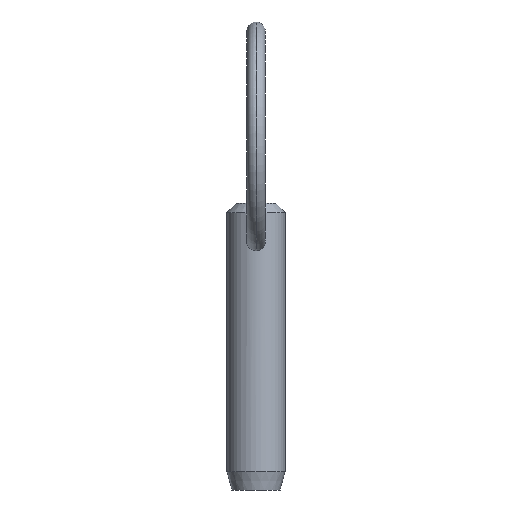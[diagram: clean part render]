
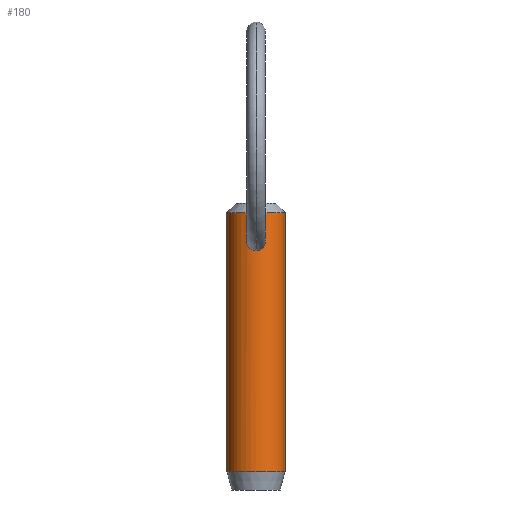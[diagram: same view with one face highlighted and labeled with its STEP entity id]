
A CAD part, front view. The second image highlights one B-rep face of the part: STEP entity #180.
In plain terms, the highlighted cylindrical face has radius 3.175 mm (diameter 6.35 mm), a partial arc.
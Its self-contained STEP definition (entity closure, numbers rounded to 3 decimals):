
#11 = CARTESIAN_POINT ( 'NONE',  ( 0., -3.175, 18.203 ) ) ;
#12 = CARTESIAN_POINT ( 'NONE',  ( 0., 0., 22.38 ) ) ;
#28 = CARTESIAN_POINT ( 'NONE',  ( 0., -3.175, 18.203 ) ) ;
#53 = DIRECTION ( 'NONE',  ( -1., 0., 0. ) ) ;
#66 = CARTESIAN_POINT ( 'NONE',  ( -0.508, -3.136, 20.135 ) ) ;
#68 = CARTESIAN_POINT ( 'NONE',  ( -0.615, -3.116, 20.053 ) ) ;
#74 = CARTESIAN_POINT ( 'NONE',  ( 3.175, 0., 17.8 ) ) ;
#80 = DIRECTION ( 'NONE',  ( 0., 0., 1. ) ) ;
#81 = EDGE_CURVE ( 'NONE', #230, #444, #476, .T. ) ;
#89 = DIRECTION ( 'NONE',  ( 1., 0., 0. ) ) ;
#96 = VERTEX_POINT ( 'NONE', #271 ) ;
#98 = CARTESIAN_POINT ( 'NONE',  ( -0.516, -3.135, 18.331 ) ) ;
#105 = EDGE_LOOP ( 'NONE', ( #335, #143 ) ) ;
#108 = CARTESIAN_POINT ( 'NONE',  ( -0.264, -3.165, 20.244 ) ) ;
#120 = EDGE_CURVE ( 'NONE', #265, #444, #146, .T. ) ;
#139 = CARTESIAN_POINT ( 'NONE',  ( 0.982, -3.02, 18.958 ) ) ;
#140 = CARTESIAN_POINT ( 'NONE',  ( 0., -3.175, 20.282 ) ) ;
#143 = ORIENTED_EDGE ( 'NONE', *, *, #317, .T. ) ;
#146 = CIRCLE ( 'NONE', #170, 3.175 ) ;
#147 = CARTESIAN_POINT ( 'NONE',  ( 0.628, -3.114, 18.404 ) ) ;
#151 = CIRCLE ( 'NONE', #434, 3.175 ) ;
#156 = ORIENTED_EDGE ( 'NONE', *, *, #120, .T. ) ;
#161 = DIRECTION ( 'NONE',  ( 0., 0., -1. ) ) ;
#164 = CARTESIAN_POINT ( 'NONE',  ( 0., 0., 17.8 ) ) ;
#169 = CARTESIAN_POINT ( 'NONE',  ( -3.175, 0., 17.8 ) ) ;
#170 = AXIS2_PLACEMENT_3D ( 'NONE', #420, #80, #53 ) ;
#180 = ADVANCED_FACE ( 'NONE', ( #347, #282 ), #239, .T. ) ;
#184 = CARTESIAN_POINT ( 'NONE',  ( 0.617, -3.116, 20.051 ) ) ;
#186 = CARTESIAN_POINT ( 'NONE',  ( 0.134, -3.175, 20.282 ) ) ;
#188 = CARTESIAN_POINT ( 'NONE',  ( -0.991, -3.016, 19.496 ) ) ;
#197 = EDGE_CURVE ( 'NONE', #230, #96, #151, .T. ) ;
#212 = CARTESIAN_POINT ( 'NONE',  ( 0., -3.175, 18.203 ) ) ;
#216 = CARTESIAN_POINT ( 'NONE',  ( 0., -3.175, 20.282 ) ) ;
#222 = ORIENTED_EDGE ( 'NONE', *, *, #81, .F. ) ;
#225 = CARTESIAN_POINT ( 'NONE',  ( 0.134, -3.175, 18.203 ) ) ;
#230 = VERTEX_POINT ( 'NONE', #473 ) ;
#239 = CYLINDRICAL_SURFACE ( 'NONE', #407, 3.175 ) ;
#255 = CARTESIAN_POINT ( 'NONE',  ( 1.004, -3.012, 19.093 ) ) ;
#261 = CARTESIAN_POINT ( 'NONE',  ( -0.067, -3.175, 20.282 ) ) ;
#264 = EDGE_LOOP ( 'NONE', ( #222, #323, #438, #156 ) ) ;
#265 = VERTEX_POINT ( 'NONE', #427 ) ;
#271 = CARTESIAN_POINT ( 'NONE',  ( -3.175, 0., 22.38 ) ) ;
#276 = VERTEX_POINT ( 'NONE', #288 ) ;
#278 = DIRECTION ( 'NONE',  ( -1., 0., 0. ) ) ;
#282 = FACE_BOUND ( 'NONE', #105, .T. ) ;
#288 = CARTESIAN_POINT ( 'NONE',  ( 0., -3.175, 20.282 ) ) ;
#291 = CARTESIAN_POINT ( 'NONE',  ( -0.134, -3.175, 18.203 ) ) ;
#296 = CARTESIAN_POINT ( 'NONE',  ( 0.884, -3.055, 19.757 ) ) ;
#298 = CARTESIAN_POINT ( 'NONE',  ( -0.133, -3.173, 20.274 ) ) ;
#299 = EDGE_CURVE ( 'NONE', #96, #265, #336, .T. ) ;
#304 = B_SPLINE_CURVE_WITH_KNOTS ( 'NONE', 3,
 ( #140, #186, #400, #399, #184, #296, #337, #255, #139, #368, #474, #147, #405, #477, #225, #28 ),
 .UNSPECIFIED., .F., .F.,
 ( 4, 2, 2, 2, 2, 2, 2, 4 ),
 ( 0.003, 0.003, 0.004, 0.004, 0.005, 0.005, 0.006, 0.006 ),
 .UNSPECIFIED. ) ;
#308 = B_SPLINE_CURVE_WITH_KNOTS ( 'NONE', 3,
 ( #212, #291, #470, #98, #361, #392, #428, #332, #475, #188, #440, #68, #66, #367, #108, #298, #261, #216 ),
 .UNSPECIFIED., .F., .F.,
 ( 4, 2, 2, 2, 2, 2, 2, 2, 4 ),
 ( 0.006, 0.006, 0.007, 0.007, 0.008, 0.008, 0.009, 0.009, 0.009 ),
 .UNSPECIFIED. ) ;
#317 = EDGE_CURVE ( 'NONE', #442, #276, #308, .T. ) ;
#323 = ORIENTED_EDGE ( 'NONE', *, *, #197, .T. ) ;
#324 = DIRECTION ( 'NONE',  ( 0., 0., -1. ) ) ;
#332 = CARTESIAN_POINT ( 'NONE',  ( -0.983, -3.02, 18.959 ) ) ;
#334 = EDGE_CURVE ( 'NONE', #276, #442, #304, .T. ) ;
#335 = ORIENTED_EDGE ( 'NONE', *, *, #334, .T. ) ;
#336 = LINE ( 'NONE', #169, #484 ) ;
#337 = CARTESIAN_POINT ( 'NONE',  ( 0.992, -3.016, 19.494 ) ) ;
#347 = FACE_OUTER_BOUND ( 'NONE', #264, .T. ) ;
#351 = DIRECTION ( 'NONE',  ( 0., 0., -1. ) ) ;
#358 = DIRECTION ( 'NONE',  ( 0., 0., -1. ) ) ;
#361 = CARTESIAN_POINT ( 'NONE',  ( -0.629, -3.114, 18.405 ) ) ;
#366 = VECTOR ( 'NONE', #161, 1000. ) ;
#367 = CARTESIAN_POINT ( 'NONE',  ( -0.328, -3.159, 20.221 ) ) ;
#368 = CARTESIAN_POINT ( 'NONE',  ( 0.888, -3.049, 18.709 ) ) ;
#392 = CARTESIAN_POINT ( 'NONE',  ( -0.815, -3.07, 18.595 ) ) ;
#399 = CARTESIAN_POINT ( 'NONE',  ( 0.51, -3.136, 20.134 ) ) ;
#400 = CARTESIAN_POINT ( 'NONE',  ( 0.269, -3.166, 20.25 ) ) ;
#405 = CARTESIAN_POINT ( 'NONE',  ( 0.515, -3.135, 18.33 ) ) ;
#407 = AXIS2_PLACEMENT_3D ( 'NONE', #164, #358, #278 ) ;
#419 = CARTESIAN_POINT ( 'NONE',  ( 3.175, 0., -5.92 ) ) ;
#420 = CARTESIAN_POINT ( 'NONE',  ( 0., 0., -5.92 ) ) ;
#427 = CARTESIAN_POINT ( 'NONE',  ( -3.175, 0., -5.92 ) ) ;
#428 = CARTESIAN_POINT ( 'NONE',  ( -0.888, -3.049, 18.709 ) ) ;
#434 = AXIS2_PLACEMENT_3D ( 'NONE', #12, #351, #89 ) ;
#438 = ORIENTED_EDGE ( 'NONE', *, *, #299, .T. ) ;
#440 = CARTESIAN_POINT ( 'NONE',  ( -0.882, -3.055, 19.76 ) ) ;
#442 = VERTEX_POINT ( 'NONE', #11 ) ;
#444 = VERTEX_POINT ( 'NONE', #419 ) ;
#470 = CARTESIAN_POINT ( 'NONE',  ( -0.269, -3.166, 18.229 ) ) ;
#473 = CARTESIAN_POINT ( 'NONE',  ( 3.175, 0., 22.38 ) ) ;
#474 = CARTESIAN_POINT ( 'NONE',  ( 0.815, -3.07, 18.595 ) ) ;
#475 = CARTESIAN_POINT ( 'NONE',  ( -1.004, -3.012, 19.095 ) ) ;
#476 = LINE ( 'NONE', #74, #366 ) ;
#477 = CARTESIAN_POINT ( 'NONE',  ( 0.268, -3.166, 18.229 ) ) ;
#484 = VECTOR ( 'NONE', #324, 1000. ) ;
